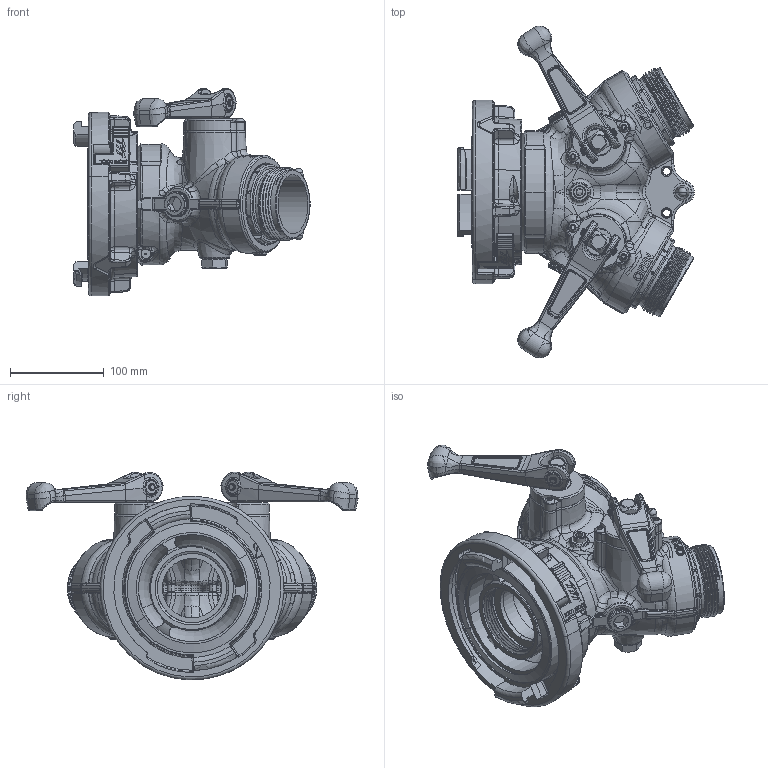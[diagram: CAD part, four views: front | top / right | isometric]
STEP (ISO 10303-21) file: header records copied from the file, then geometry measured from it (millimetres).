
FILE_DESCRIPTION (( 'STEP AP203' ), '1' );
FILE_NAME ('AY8ST-NJ.step', '2014-05-13T19:27:43', ( 'user' ), ( '' ), 'SwSTEP 2.0', 'SolidWorks 2012', '' );
FILE_SCHEMA (( 'CONFIG_CONTROL_DESIGN' ));
Length unit declared in the file: inch
Products named in the file (1): AY8ST-NJ
Bounding box: 252.63 x 354.41 x 221.73 mm (x, y, z)
Surface area: 408324.5 mm2 (no closed solid volume)
Topology: 0 solids, 54 shells, 2448 faces, 7670 edges, 5038 vertices
Faces by surface type: bspline 707, cylinder 535, plane 487, cone 386, torus 279, sphere 54
Entity records: 134526 total; most frequent: CARTESIAN_POINT 76156, ORIENTED_EDGE 12759, DIRECTION 10167, EDGE_CURVE 7605, VERTEX_POINT 5023, AXIS2_PLACEMENT_3D 3973, EDGE_LOOP 2590, B_SPLINE_CURVE_WITH_KNOTS 2548
